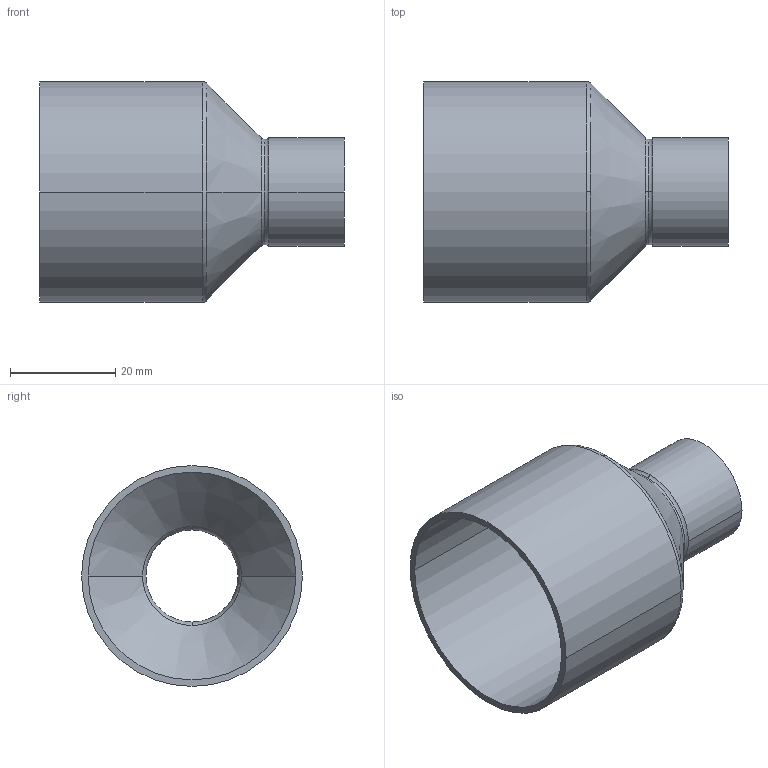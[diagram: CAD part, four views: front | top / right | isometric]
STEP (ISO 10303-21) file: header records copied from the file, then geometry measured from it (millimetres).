
FILE_DESCRIPTION((''),'2;1');
FILE_NAME('G:\Technics\CAD\Bauteile\Serie 15243\152434218.stp','2005-10-21T12:49:43',('boden'),(''),'Autodesk Inventor 8','Autodesk Inventor 8','');
FILE_SCHEMA(('AUTOMOTIVE_DESIGN { 1 0 10303 214 1 1 1 1 }'));
Length unit declared in the file: millimetre
Products named in the file (1): 152434218
Bounding box: 58 x 42 x 42 mm (x, y, z)
Volume: 8004.6 mm3; surface area: 13044 mm2
Topology: 1 solids, 1 shells, 24 faces, 60 edges, 38 vertices
Faces by surface type: cylinder 8, torus 6, bspline 4, cone 4, plane 2
Entity records: 931 total; most frequent: CARTESIAN_POINT 299, DIRECTION 150, ORIENTED_EDGE 120, AXIS2_PLACEMENT_3D 69, EDGE_CURVE 60, CIRCLE 48, VERTEX_POINT 38, EDGE_LOOP 26
